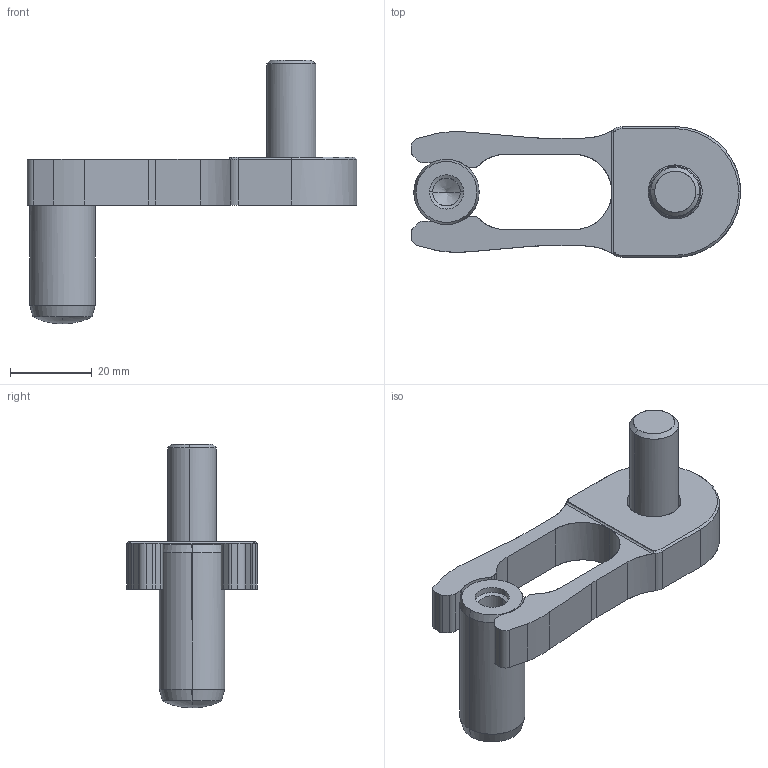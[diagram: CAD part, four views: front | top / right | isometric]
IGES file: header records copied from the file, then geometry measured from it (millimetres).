
Start section: START RECORD GO HERE.
Global section: file name: rc328012.igs; native system: DASSAULT SYSTEMES CATIA V5 R20 - www.3ds.com; preprocessor: CATIA Version 5 Release 20 ; author: Utente; organization: NB04-ASUS; date: 20201103.214411; units: millimetre
Bounding box: 80.6 x 32 x 64.6 mm (x, y, z)
Surface area: 11484.5 mm2 (no closed solid volume)
Topology: 0 solids, 0 shells, 110 faces, 537 edges, 532 vertices
Faces by surface type: revolution 71, plane 39
